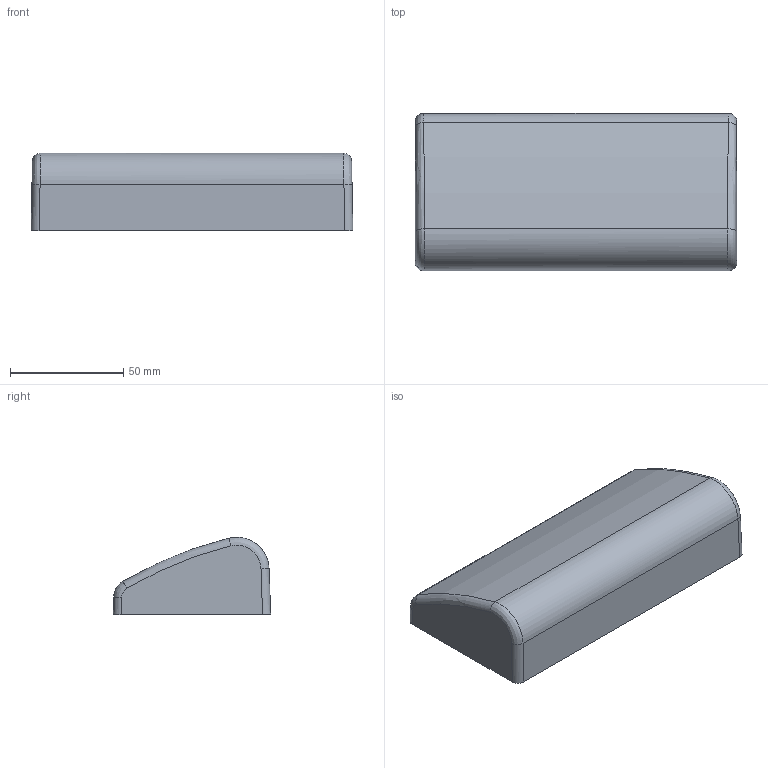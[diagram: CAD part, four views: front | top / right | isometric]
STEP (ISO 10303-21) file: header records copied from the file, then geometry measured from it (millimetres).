
FILE_DESCRIPTION(/* description */ (''),/* implementation_level */ '2;1');
FILE_NAME(/* name */ 'part-17026_stp.stp',/* time_stamp */ '2019-04-17T14:40:49+08:00',/* author */ (''),/* organization */ (''),/* preprocessor_version */ 'ST-DEVELOPER v16',/* originating_system */ 'SIEMENS PLM Software NX 10.0',/* authorisation */ '');
FILE_SCHEMA (('AP203_CONFIGURATION_CONTROLLED_3D_DESIGN_OF_MECHANICAL_PARTS_AND_ASSEMBLIES_MIM_LF { 1 0 10303 403 2 1 2}'));
Length unit declared in the file: millimetre
Products named in the file (1): tooling-17026_stp
Bounding box: 141.78 x 69.36 x 34.13 mm (x, y, z)
Volume: 71779.6 mm3; surface area: 36848.6 mm2
Topology: 1 solids, 1 shells, 25 faces, 58 edges, 36 vertices
Faces by surface type: cylinder 10, plane 9, bspline 6
Entity records: 916 total; most frequent: CARTESIAN_POINT 266, ORIENTED_EDGE 116, DIRECTION 116, EDGE_CURVE 58, AXIS2_PLACEMENT_3D 44, VERTEX_POINT 36, LINE 28, VECTOR 28
